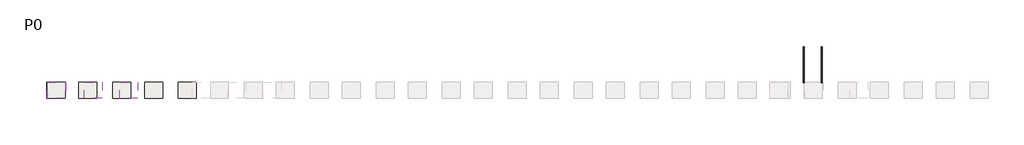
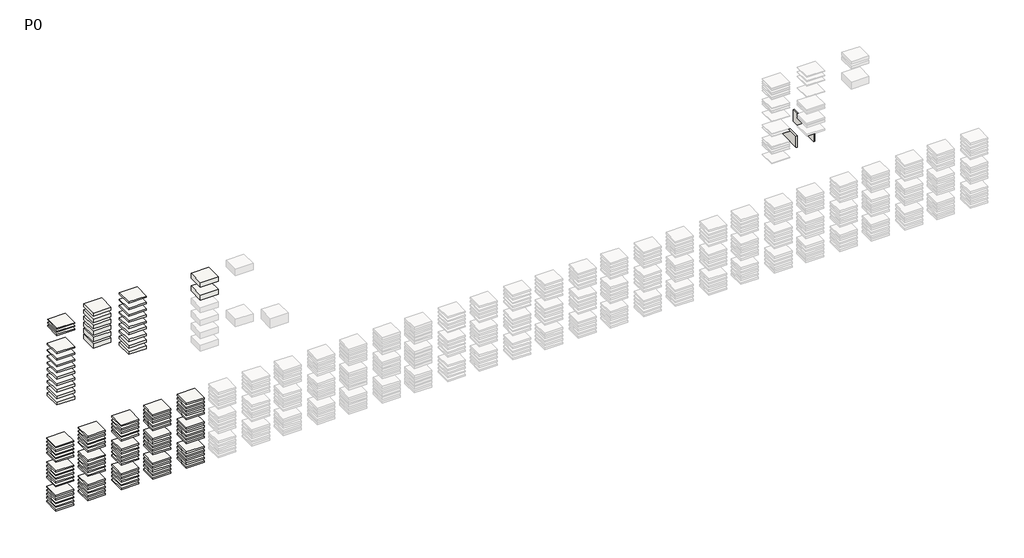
# One storey, part 1 of 11: 104 slabs, 2 walls.
"""IFC4 building model written with IfcOpenShell, lengths in millimetres."""

import ifcopenshell
import ifcopenshell.guid

model = None  # the IFC model being written
_history = None  # IfcOwnerHistory: only IFC2X3 demands one
_inside = {}  # id of a spatial element -> (the spatial element, [elements in it])
_under = {}  # id of a project, library or spatial element -> (it, [spatial elements below it])
_declared = {}  # id of a project -> (the project, [libraries it declares])
_typed = {}  # id of a type object -> (the type object, [elements of that type])
_made_of = {}  # id of a material, layer set ... -> (it, [elements and type objects made of it])


def new_model(schema):
    """Start an empty IFC model of exactly this schema.

    Asked for "IFC4X3", IfcOpenShell would pick the latest addendum, in which some entities
    have other attributes; the version numbers below select the first issue.
    IFC2X3 requires an IfcOwnerHistory on every rooted entity: one is made here for all.
    """
    global model, _history
    if schema == "IFC4X3":
        model = ifcopenshell.file(schema_version=(4, 3, 0, 0))
    else:
        model = ifcopenshell.file(schema=schema)
    _inside.clear()
    _under.clear()
    _declared.clear()
    _typed.clear()
    _made_of.clear()
    _history = None
    if model.schema == "IFC2X3":
        org = make("IfcOrganization", Name="unknown")
        user = make(
            "IfcPersonAndOrganization",
            ThePerson=make("IfcPerson", FamilyName="unknown"),
            TheOrganization=org,
        )
        app = make(
            "IfcApplication",
            ApplicationDeveloper=org,
            Version="unknown",
            ApplicationFullName="unknown",
            ApplicationIdentifier="unknown",
        )
        _history = make(
            "IfcOwnerHistory",
            OwningUser=user,
            OwningApplication=app,
            ChangeAction="ADDED",
            CreationDate=0,
        )
    return model


def make(cls, **values):
    """One entity of the class cls with the attributes given. An attribute that is None is left unset."""
    return model.create_entity(
        cls, **{name: value for name, value in values.items() if value is not None}
    )


def rooted(cls, **values):
    """An entity with a GlobalId (a new one), such as an element, a storey or a relation."""
    return make(cls, GlobalId=ifcopenshell.guid.new(), OwnerHistory=_history, **values)


def si_unit(unit_type, name, prefix=None):
    """IfcSIUnit, for example si_unit("LENGTHUNIT", "METRE", prefix="MILLI")."""
    return make("IfcSIUnit", UnitType=unit_type, Prefix=prefix, Name=name)


def assignment(units):
    """IfcUnitAssignment: the units of a project."""
    return None if units is None else make("IfcUnitAssignment", Units=units)


def point(xyz):
    """IfcCartesianPoint."""
    return None if xyz is None else make("IfcCartesianPoint", Coordinates=xyz)


def direction(xyz):
    """IfcDirection."""
    return None if xyz is None else make("IfcDirection", DirectionRatios=xyz)


def frame(location, z_axis=None, x_axis=None):
    """IfcAxis2Placement3D, a coordinate frame: its origin and axes. An axis left out is left unset."""
    return make(
        "IfcAxis2Placement3D",
        Location=point(location),
        Axis=direction(z_axis),
        RefDirection=direction(x_axis),
    )


def origin():
    """The frame at (0, 0, 0) with its axes left unset."""
    return frame((0.0, 0.0, 0.0))


def place(relative_to, where):
    """IfcLocalPlacement: puts the frame where relative to a parent placement (None: the world)."""
    return make(
        "IfcLocalPlacement", PlacementRelTo=relative_to, RelativePlacement=where
    )


def context(
    kind, dimensions, precision=None, world=None, true_north=None, identifier=None
):
    """IfcGeometricRepresentationContext, for example the 3D "Model" context."""
    return make(
        "IfcGeometricRepresentationContext",
        ContextIdentifier=identifier,
        ContextType=kind,
        CoordinateSpaceDimension=dimensions,
        Precision=precision,
        WorldCoordinateSystem=world,
        TrueNorth=true_north,
    )


def project(units=None, contexts=None):
    """IfcProject with its units and contexts."""
    return rooted(
        "IfcProject",
        Name="project",
        RepresentationContexts=contexts,
        UnitsInContext=assignment(units),
    )


def spatial(cls, under=None, at=None, **own):
    """A site, building, storey or space (cls), placed at a placement, below another one or the project."""
    s = rooted(cls, ObjectPlacement=at, **own)
    if under is not None:
        _under.setdefault(under.id(), (under, []))[1].append(s)
    return s


def polyline(points):
    """IfcPolyline through the points."""
    return make("IfcPolyline", Points=[point(p) for p in points])


def outline(outer, holes=None, kind="AREA"):
    """IfcArbitraryClosedProfileDef: a profile drawn as a closed curve; with holes, ...WithVoids."""
    if holes is None:
        return make("IfcArbitraryClosedProfileDef", ProfileType=kind, OuterCurve=outer)
    return make(
        "IfcArbitraryProfileDefWithVoids",
        ProfileType=kind,
        OuterCurve=outer,
        InnerCurves=holes,
    )


def extrude(swept, where, along, depth):
    """IfcExtrudedAreaSolid: the profile swept, set in the frame where, extruded along a direction by depth."""
    return make(
        "IfcExtrudedAreaSolid",
        SweptArea=swept,
        Position=where,
        ExtrudedDirection=direction(along),
        Depth=depth,
    )


def shape(context_of_items, identifier, shape_type, items):
    """IfcShapeRepresentation: the items that make up one representation, for example the "Body"."""
    return make(
        "IfcShapeRepresentation",
        ContextOfItems=context_of_items,
        RepresentationIdentifier=identifier,
        RepresentationType=shape_type,
        Items=items,
    )


def made_of(thing, what):
    """Note that an element or type object is made of a material, layer set ...; save() writes the relation."""
    if what is not None:
        _made_of.setdefault(what.id(), (what, []))[1].append(thing)
    return thing


def element(
    cls,
    number,
    at=None,
    inside=None,
    cuts=None,
    type_object=None,
    material=None,
    context=None,
    identifier="Body",
    shape_type=None,
    held_by="IfcProductDefinitionShape",
    body=None,
    shapes=None,
    **own,
):
    """One element of the class cls, such as IfcWall. Its Tag is "e" and its number.

    at: its placement. inside: the storey or other place that contains it. cuts: it is an
    opening in that element (IfcRelVoidsElement). A single representation is given by context,
    identifier, shape_type and body (its items); several are given by shapes. held_by: the class
    of the entity that holds the representations. save() writes the other relations.
    """
    e = rooted(cls, Tag="e%d" % number, ObjectPlacement=at, **own)
    if body is not None:
        shapes = [shape(context, identifier, shape_type, body)]
    if shapes is not None:
        e.Representation = make(held_by, Representations=shapes)
    if inside is not None:
        _inside.setdefault(inside.id(), (inside, []))[1].append(e)
    if cuts is not None:
        rooted(
            "IfcRelVoidsElement", RelatingBuildingElement=cuts, RelatedOpeningElement=e
        )
    if type_object is not None:
        _typed.setdefault(type_object.id(), (type_object, []))[1].append(e)
    return made_of(e, material)


def aggregate(whole, parts):
    """IfcRelAggregates: a whole, such as a stair, and the parts it consists of."""
    return rooted("IfcRelAggregates", RelatingObject=whole, RelatedObjects=parts)


def save(model, path):
    """Write the relations noted so far, then the file.

    IfcRelAggregates (storeys below a building ...), IfcRelContainedInSpatialStructure (elements
    in a storey), IfcRelDefinesByType, IfcRelAssociatesMaterial and IfcRelDeclares: one each for
    every whole, place, type object, material and project.
    """
    for whole, parts in _under.values():
        aggregate(whole, parts)
    for where, things in _inside.values():
        rooted(
            "IfcRelContainedInSpatialStructure",
            RelatedElements=things,
            RelatingStructure=where,
        )
    for kind, things in _typed.values():
        rooted("IfcRelDefinesByType", RelatedObjects=things, RelatingType=kind)
    for what, things in _made_of.values():
        rooted("IfcRelAssociatesMaterial", RelatedObjects=things, RelatingMaterial=what)
    for by, libraries in _declared.values():
        rooted("IfcRelDeclares", RelatingContext=by, RelatedDefinitions=libraries)
    model.write(path)


model = new_model("IFC4")

# Units and contexts
model_context = context("Model", 3, world=origin())
ifc_project = project(units=[si_unit("LENGTHUNIT", "METRE", prefix="MILLI")], contexts=[model_context])

# Site, building, storey
site = spatial("IfcSite", under=ifc_project)
building = spatial("IfcBuilding", under=site)
storey = spatial("IfcBuildingStorey", under=building, Name="P0", Elevation=0.0)

# Slabs
placement = place(None, origin())
element("IfcSlab", 1, ObjectType="INTERCAPEDINE VENTILATA H3", at=placement, inside=storey, context=model_context, shape_type="SweptSolid", body=[
    extrude(outline(polyline([(-34314.8658799, 1686.0689128), (-34314.8658799, -1013.9310872), (-37314.8658799, -1013.9310872), (-37314.8658799, 1686.0689128), (-34314.8658799, 1686.0689128)])), frame((0.0, 0.0, 13630.0), z_axis=(0.0, 0.0, 1.0), x_axis=(1.0, 0.0, 0.0)), (0.0, 0.0, 1.0), 130.0),
])
element("IfcSlab", 2, ObjectType="INTERCAPEDINE VENTILATA H6", at=placement, inside=storey, context=model_context, shape_type="SweptSolid", body=[
    extrude(outline(polyline([(-34314.8658799, 1686.0689128), (-34314.8658799, -1013.9310872), (-37314.8658799, -1013.9310872), (-37314.8658799, 1686.0689128), (-34314.8658799, 1686.0689128)])), frame((0.0, 0.0, 13060.0), z_axis=(0.0, 0.0, 1.0), x_axis=(1.0, 0.0, 0.0)), (0.0, 0.0, 1.0), 160.0),
])
element("IfcSlab", 3, ObjectType="INTERCAPEDINE VENTILATA H9", at=placement, inside=storey, context=model_context, shape_type="SweptSolid", body=[
    extrude(outline(polyline([(-34314.8658799, 1686.0689128), (-34314.8658799, -1013.9310872), (-37314.8658799, -1013.9310872), (-37314.8658799, 1686.0689128), (-34314.8658799, 1686.0689128)])), frame((0.0, 0.0, 12490.0000725), z_axis=(0.0, 0.0, 1.0), x_axis=(1.0, 0.0, 0.0)), (0.0, 0.0, 1.0), 190.0),
])
element("IfcSlab", 4, ObjectType="INTERCAPEDINE VENTILATA H13", at=placement, inside=storey, context=model_context, shape_type="SweptSolid", body=[
    extrude(outline(polyline([(-34334.8658799, 1686.0689128), (-34334.8658799, -1013.9310872), (-37334.8658799, -1013.9310872), (-37334.8658799, 1686.0689128), (-34334.8658799, 1686.0689128)])), frame((0.0, 0.0, 9260.0), z_axis=(0.0, 0.0, 1.0), x_axis=(1.0, 0.0, 0.0)), (0.0, 0.0, 1.0), 230.0),
])
element("IfcSlab", 5, ObjectType="INTERCAPEDINE VENTILATA H15", at=placement, inside=storey, context=model_context, shape_type="SweptSolid", body=[
    extrude(outline(polyline([(-34334.8658799, 1686.0689128), (-34334.8658799, -1013.9310872), (-37334.8658799, -1013.9310872), (-37334.8658799, 1686.0689128), (-34334.8658799, 1686.0689128)])), frame((0.0, 0.0, 8120.0), z_axis=(0.0, 0.0, 1.0), x_axis=(1.0, 0.0, 0.0)), (0.0, 0.0, 1.0), 250.0),
])
element("IfcSlab", 6, ObjectType="INTERCAPEDINE VENTILATA H17", at=placement, inside=storey, context=model_context, shape_type="SweptSolid", body=[
    extrude(outline(polyline([(-34334.8658799, 1686.0689128), (-34334.8658799, -1013.9310872), (-37334.8658799, -1013.9310872), (-37334.8658799, 1686.0689128), (-34334.8658799, 1686.0689128)])), frame((0.0, 0.0, 6980.0), z_axis=(0.0, 0.0, 1.0), x_axis=(1.0, 0.0, 0.0)), (0.0, 0.0, 1.0), 270.0),
])
element("IfcSlab", 7, ObjectType="INTERCAPEDINE VENTILATA H20", at=placement, inside=storey, context=model_context, shape_type="SweptSolid", body=[
    extrude(outline(polyline([(-34334.8658799, 1686.0689128), (-34334.8658799, -1013.9310872), (-37334.8658799, -1013.9310872), (-37334.8658799, 1686.0689128), (-34334.8658799, 1686.0689128)])), frame((0.0, 0.0, 5840.0), z_axis=(0.0, 0.0, 1.0), x_axis=(1.0, 0.0, 0.0)), (0.0, 0.0, 1.0), 300.0),
])
element("IfcSlab", 8, ObjectType="INTERCAPEDINE VENTILATA H25", at=placement, inside=storey, context=model_context, shape_type="SweptSolid", body=[
    extrude(outline(polyline([(-34334.8658799, 1686.0689128), (-34334.8658799, -1013.9310872), (-37334.8658799, -1013.9310872), (-37334.8658799, 1686.0689128), (-34334.8658799, 1686.0689128)])), frame((0.0, 0.0, 4700.0), z_axis=(0.0, 0.0, 1.0), x_axis=(1.0, 0.0, 0.0)), (0.0, 0.0, 1.0), 350.0),
])
element("IfcSlab", 9, ObjectType="INTERCAPEDINE VENTILATA H27", at=placement, inside=storey, context=model_context, shape_type="SweptSolid", body=[
    extrude(outline(polyline([(-34334.8658799, 1686.0689128), (-34334.8658799, -1013.9310872), (-37334.8658799, -1013.9310872), (-37334.8658799, 1686.0689128), (-34334.8658799, 1686.0689128)])), frame((0.0, 0.0, 3560.0), z_axis=(0.0, 0.0, 1.0), x_axis=(1.0, 0.0, 0.0)), (0.0, 0.0, 1.0), 370.0),
])
element("IfcSlab", 10, ObjectType="INTERCAPEDINE VENTILATA H30", at=placement, inside=storey, context=model_context, shape_type="SweptSolid", body=[
    extrude(outline(polyline([(-34334.8658799, 1686.0689128), (-34334.8658799, -1013.9310872), (-37334.8658799, -1013.9310872), (-37334.8658799, 1686.0689128), (-34334.8658799, 1686.0689128)])), frame((0.0, 0.0, 2420.0), z_axis=(0.0, 0.0, 1.0), x_axis=(1.0, 0.0, 0.0)), (0.0, 0.0, 1.0), 400.0),
])
element("IfcSlab", 11, ObjectType="INTERCAPEDINE VENTILATA H35", at=placement, inside=storey, context=model_context, shape_type="SweptSolid", body=[
    extrude(outline(polyline([(-34334.8658799, 1686.0689128), (-34334.8658799, -1013.9310872), (-37334.8658799, -1013.9310872), (-37334.8658799, 1686.0689128), (-34334.8658799, 1686.0689128)])), frame((0.0, 0.0, 1280.0), z_axis=(0.0, 0.0, 1.0), x_axis=(1.0, 0.0, 0.0)), (0.0, 0.0, 1.0), 450.0),
])
element("IfcSlab", 12, ObjectType="INTERCAPEDINE VENTILATA H40", at=placement, inside=storey, context=model_context, shape_type="SweptSolid", body=[
    extrude(outline(polyline([(-34334.8658799, 1686.0689128), (-34334.8658799, -1013.9310872), (-37334.8658799, -1013.9310872), (-37334.8658799, 1686.0689128), (-34334.8658799, 1686.0689128)])), frame((0.0, 0.0, 140.0), z_axis=(0.0, 0.0, 1.0), x_axis=(1.0, 0.0, 0.0)), (0.0, 0.0, 1.0), 500.0),
])
element("IfcSlab", 13, ObjectType="INTERCAPEDINE VENTILATA H45", at=placement, inside=storey, context=model_context, shape_type="SweptSolid", body=[
    extrude(outline(polyline([(-28223.7321132, 1686.0689128), (-28223.7321132, -1013.9310872), (-31223.7321132, -1013.9310872), (-31223.7321132, 1686.0689128), (-28223.7321132, 1686.0689128)])), frame((0.0, 0.0, 13820.0), z_axis=(0.0, 0.0, 1.0), x_axis=(1.0, 0.0, 0.0)), (0.0, 0.0, 1.0), 550.0),
])
element("IfcSlab", 14, ObjectType="INTERCAPEDINE VENTILATA H50", at=placement, inside=storey, context=model_context, shape_type="SweptSolid", body=[
    extrude(outline(polyline([(-28223.7658799, 1686.0689128), (-28223.7658799, -1013.9310872), (-31223.7658799, -1013.9310872), (-31223.7658799, 1686.0689128), (-28223.7658799, 1686.0689128)])), frame((0.0, 0.0, 12680.0), z_axis=(0.0, 0.0, 1.0), x_axis=(1.0, 0.0, 0.0)), (0.0, 0.0, 1.0), 600.0),
])
element("IfcSlab", 15, ObjectType="INTERCAPEDINE VENTILATA H55", at=placement, inside=storey, context=model_context, shape_type="SweptSolid", body=[
    extrude(outline(polyline([(-28223.7321132, 1686.0689128), (-28223.7321132, -1013.9310872), (-31223.7321132, -1013.9310872), (-31223.7321132, 1686.0689128), (-28223.7321132, 1686.0689128)])), frame((0.0, 0.0, 11540.0), z_axis=(0.0, 0.0, 1.0), x_axis=(1.0, 0.0, 0.0)), (0.0, 0.0, 1.0), 650.0),
])
element("IfcSlab", 16, ObjectType="INTERCAPEDINE VENTILATA H60", at=placement, inside=storey, context=model_context, shape_type="SweptSolid", body=[
    extrude(outline(polyline([(-28223.7321132, 1686.0689128), (-28223.7321132, -1013.9310872), (-31223.7321132, -1013.9310872), (-31223.7321132, 1686.0689128), (-28223.7321132, 1686.0689128)])), frame((0.0, 0.0, 10400.0), z_axis=(0.0, 0.0, 1.0), x_axis=(1.0, 0.0, 0.0)), (0.0, 0.0, 1.0), 700.0),
])
element("IfcSlab", 17, ObjectType="INTERCAPEDINE VENTILATA H65", at=placement, inside=storey, context=model_context, shape_type="SweptSolid", body=[
    extrude(outline(polyline([(-28223.7321132, 1686.0689128), (-28223.7321132, -1013.9310872), (-31223.7321132, -1013.9310872), (-31223.7321132, 1686.0689128), (-28223.7321132, 1686.0689128)])), frame((0.0, 0.0, 9260.0), z_axis=(0.0, 0.0, 1.0), x_axis=(1.0, 0.0, 0.0)), (0.0, 0.0, 1.0), 750.0),
])
element("IfcSlab", 18, ObjectType="INTERCAPEDINE VENTILATA H70", at=placement, inside=storey, context=model_context, shape_type="SweptSolid", body=[
    extrude(outline(polyline([(-28223.7321132, 1686.0689128), (-28223.7321132, -1013.9310872), (-31223.7321132, -1013.9310872), (-31223.7321132, 1686.0689128), (-28223.7321132, 1686.0689128)])), frame((0.0, 0.0, 8120.0), z_axis=(0.0, 0.0, 1.0), x_axis=(1.0, 0.0, 0.0)), (0.0, 0.0, 1.0), 800.0),
])
element("IfcSlab", 19, ObjectType="INTERCAPEDINE VENTILATA H13", at=placement, inside=storey, context=model_context, shape_type="SweptSolid", body=[
    extrude(outline(polyline([(-22245.6696558, 1686.0689128), (-22245.6696558, -1013.9310872), (-25245.6696558, -1013.9310872), (-25245.6696558, 1686.0689128), (-22245.6696558, 1686.0689128)])), frame((0.0, 0.0, 14010.0576339), z_axis=(0.0, 0.0, 1.0), x_axis=(1.0, 0.0, 0.0)), (0.0, 0.0, 1.0), 230.0),
])
element("IfcSlab", 20, ObjectType="INTERCAPEDINE VENTILATA H15", at=placement, inside=storey, context=model_context, shape_type="SweptSolid", body=[
    extrude(outline(polyline([(-22245.6696558, 1686.0689128), (-22245.6696558, -1013.9310872), (-25245.6696558, -1013.9310872), (-25245.6696558, 1686.0689128), (-22245.6696558, 1686.0689128)])), frame((0.0, 0.0, 12870.0576339), z_axis=(0.0, 0.0, 1.0), x_axis=(1.0, 0.0, 0.0)), (0.0, 0.0, 1.0), 250.0),
])
element("IfcSlab", 21, ObjectType="INTERCAPEDINE VENTILATA H17", at=placement, inside=storey, context=model_context, shape_type="SweptSolid", body=[
    extrude(outline(polyline([(-22245.6696558, 1686.0689128), (-22245.6696558, -1013.9310872), (-25245.6696558, -1013.9310872), (-25245.6696558, 1686.0689128), (-22245.6696558, 1686.0689128)])), frame((0.0, 0.0, 11730.0576339), z_axis=(0.0, 0.0, 1.0), x_axis=(1.0, 0.0, 0.0)), (0.0, 0.0, 1.0), 270.0),
])
element("IfcSlab", 22, ObjectType="INTERCAPEDINE VENTILATA H20", at=placement, inside=storey, context=model_context, shape_type="SweptSolid", body=[
    extrude(outline(polyline([(-22245.6696558, 1686.0689128), (-22245.6696558, -1013.9310872), (-25245.6696558, -1013.9310872), (-25245.6696558, 1686.0689128), (-22245.6696558, 1686.0689128)])), frame((0.0, 0.0, 10590.0576339), z_axis=(0.0, 0.0, 1.0), x_axis=(1.0, 0.0, 0.0)), (0.0, 0.0, 1.0), 300.0),
])
element("IfcSlab", 23, ObjectType="INTERCAPEDINE VENTILATA H25", at=placement, inside=storey, context=model_context, shape_type="SweptSolid", body=[
    extrude(outline(polyline([(-22245.6696558, 1686.0689128), (-22245.6696558, -1013.9310872), (-25245.6696558, -1013.9310872), (-25245.6696558, 1686.0689128), (-22245.6696558, 1686.0689128)])), frame((0.0, 0.0, 9450.0576339), z_axis=(0.0, 0.0, 1.0), x_axis=(1.0, 0.0, 0.0)), (0.0, 0.0, 1.0), 350.0),
])
element("IfcSlab", 24, ObjectType="INTERCAPEDINE VENTILATA H27", at=placement, inside=storey, context=model_context, shape_type="SweptSolid", body=[
    extrude(outline(polyline([(-22245.6696558, 1686.0689128), (-22245.6696558, -1013.9310872), (-25245.6696558, -1013.9310872), (-25245.6696558, 1686.0689128), (-22245.6696558, 1686.0689128)])), frame((0.0, 0.0, 8390.0), z_axis=(0.0, 0.0, 1.0), x_axis=(1.0, 0.0, 0.0)), (0.0, 0.0, 1.0), 370.0),
])
element("IfcSlab", 25, ObjectType="INTERCAPEDINE VENTILATA H30", at=placement, inside=storey, context=model_context, shape_type="SweptSolid", body=[
    extrude(outline(polyline([(-22245.6696558, 1686.0689128), (-22245.6696558, -1013.9310872), (-25245.6696558, -1013.9310872), (-25245.6696558, 1686.0689128), (-22245.6696558, 1686.0689128)])), frame((0.0, 0.0, 7170.0576339), z_axis=(0.0, 0.0, 1.0), x_axis=(1.0, 0.0, 0.0)), (0.0, 0.0, 1.0), 400.0),
])
element("IfcSlab", 26, ObjectType="INTERCAPEDINE VENTILATA H35", at=placement, inside=storey, context=model_context, shape_type="SweptSolid", body=[
    extrude(outline(polyline([(-22245.6696558, 1686.0689128), (-22245.6696558, -1013.9310872), (-25245.6696558, -1013.9310872), (-25245.6696558, 1686.0689128), (-22245.6696558, 1686.0689128)])), frame((0.0, 0.0, 6030.0576339), z_axis=(0.0, 0.0, 1.0), x_axis=(1.0, 0.0, 0.0)), (0.0, 0.0, 1.0), 450.0),
])
element("IfcSlab", 27, ObjectType="INTERCAPEDINE VENTILATA H40", at=placement, inside=storey, context=model_context, shape_type="SweptSolid", body=[
    extrude(outline(polyline([(-22245.6696558, 1686.0689128), (-22245.6696558, -1013.9310872), (-25245.6696558, -1013.9310872), (-25245.6696558, 1686.0689128), (-22245.6696558, 1686.0689128)])), frame((0.0, 0.0, 4890.0576339), z_axis=(0.0, 0.0, 1.0), x_axis=(1.0, 0.0, 0.0)), (0.0, 0.0, 1.0), 500.0),
])
element("IfcSlab", 28, ObjectType="INTERCAPEDINE VENTILATA H75", at=placement, inside=storey, context=model_context, shape_type="SweptSolid", body=[
    extrude(outline(polyline([(-10155.6696558, 1686.0689128), (-10155.6696558, -1013.9310872), (-13155.6696558, -1013.9310872), (-13155.6696558, 1686.0689128), (-10155.6696558, 1686.0689128)])), frame((0.0, 0.0, 12610.0000022), z_axis=(0.0, 0.0, 1.0), x_axis=(1.0, 0.0, 0.0)), (0.0, 0.0, 1.0), 850.0),
])
element("IfcSlab", 29, ObjectType="INTERCAPEDINE VENTILATA H80", at=placement, inside=storey, context=model_context, shape_type="SweptSolid", body=[
    extrude(outline(polyline([(-10155.6696558, 1686.0689128), (-10155.6696558, -1013.9310872), (-13155.6696558, -1013.9310872), (-13155.6696558, 1686.0689128), (-10155.6696558, 1686.0689128)])), frame((0.0, 0.0, 10330.0000022), z_axis=(0.0, 0.0, 1.0), x_axis=(1.0, 0.0, 0.0)), (0.0, 0.0, 1.0), 900.0),
])
element("IfcSlab", 30, ObjectType="NNEH10 H5", at=placement, inside=storey, context=model_context, shape_type="SweptSolid", body=[
    extrude(outline(polyline([(-34489.8435929, 1686.0689128), (-34489.8435929, -1013.9310872), (-37489.8435929, -1013.9310872), (-37489.8435929, 1686.0689128), (-34489.8435929, 1686.0689128)])), frame((0.0, 0.0, -7449.5323192), z_axis=(0.0, 0.0, 1.0), x_axis=(1.0, 0.0, 0.0)), (0.0, 0.0, 1.0), 208.0),
])
element("IfcSlab", 31, ObjectType="NNEH10 H5", at=placement, inside=storey, context=model_context, shape_type="SweptSolid", body=[
    extrude(outline(polyline([(-34489.8435929, 1686.0689128), (-34489.8435929, -1013.9310872), (-37489.8435929, -1013.9310872), (-37489.8435929, 1686.0689128), (-34489.8435929, 1686.0689128)])), frame((0.0, 0.0, -8099.5322376), z_axis=(0.0, 0.0, 1.0), x_axis=(1.0, 0.0, 0.0)), (0.0, 0.0, 1.0), 208.0),
])
element("IfcSlab", 32, ObjectType="NNEH10 H5", at=placement, inside=storey, context=model_context, shape_type="SweptSolid", body=[
    extrude(outline(polyline([(-34489.8435929, 1686.0689128), (-34489.8435929, -1013.9310872), (-37489.8435929, -1013.9310872), (-37489.8435929, 1686.0689128), (-34489.8435929, 1686.0689128)])), frame((0.0, 0.0, -8749.5322376), z_axis=(0.0, 0.0, 1.0), x_axis=(1.0, 0.0, 0.0)), (0.0, 0.0, 1.0), 208.0),
])
element("IfcSlab", 33, ObjectType="NNEH10 H5", at=placement, inside=storey, context=model_context, shape_type="SweptSolid", body=[
    extrude(outline(polyline([(-34489.8435929, 1686.0689128), (-34489.8435929, -1013.9310872), (-37489.8435929, -1013.9310872), (-37489.8435929, 1686.0689128), (-34489.8435929, 1686.0689128)])), frame((0.0, 0.0, -9399.5322376), z_axis=(0.0, 0.0, 1.0), x_axis=(1.0, 0.0, 0.0)), (0.0, 0.0, 1.0), 208.0),
])
element("IfcSlab", 34, ObjectType="NNEH10 H5", at=placement, inside=storey, context=model_context, shape_type="SweptSolid", body=[
    extrude(outline(polyline([(-34489.8435929, 1686.0689128), (-34489.8435929, -1013.9310872), (-37489.8435929, -1013.9310872), (-37489.8435929, 1686.0689128), (-34489.8435929, 1686.0689128)])), frame((0.0, 0.0, -10049.5323192), z_axis=(0.0, 0.0, 1.0), x_axis=(1.0, 0.0, 0.0)), (0.0, 0.0, 1.0), 208.0),
])
element("IfcSlab", 35, ObjectType="NNEH10 H6", at=placement, inside=storey, context=model_context, shape_type="SweptSolid", body=[
    extrude(outline(polyline([(-34489.8435929, 1686.0689128), (-34489.8435929, -1013.9310872), (-37489.8435929, -1013.9310872), (-37489.8435929, 1686.0689128), (-34489.8435929, 1686.0689128)])), frame((0.0, 0.0, -11779.532156), z_axis=(0.0, 0.0, 1.0), x_axis=(1.0, 0.0, 0.0)), (0.0, 0.0, 1.0), 218.0),
])
element("IfcSlab", 36, ObjectType="NNEH10 H6", at=placement, inside=storey, context=model_context, shape_type="SweptSolid", body=[
    extrude(outline(polyline([(-34489.8435929, 1686.0689128), (-34489.8435929, -1013.9310872), (-37489.8435929, -1013.9310872), (-37489.8435929, 1686.0689128), (-34489.8435929, 1686.0689128)])), frame((0.0, 0.0, -12429.532156), z_axis=(0.0, 0.0, 1.0), x_axis=(1.0, 0.0, 0.0)), (0.0, 0.0, 1.0), 218.0),
])
element("IfcSlab", 37, ObjectType="NNEH10 H6", at=placement, inside=storey, context=model_context, shape_type="SweptSolid", body=[
    extrude(outline(polyline([(-34489.8435929, 1686.0689128), (-34489.8435929, -1013.9310872), (-37489.8435929, -1013.9310872), (-37489.8435929, 1686.0689128), (-34489.8435929, 1686.0689128)])), frame((0.0, 0.0, -13079.532156), z_axis=(0.0, 0.0, 1.0), x_axis=(1.0, 0.0, 0.0)), (0.0, 0.0, 1.0), 218.0),
])
element("IfcSlab", 38, ObjectType="NNEH10 H6", at=placement, inside=storey, context=model_context, shape_type="SweptSolid", body=[
    extrude(outline(polyline([(-34489.8435929, 1686.0689128), (-34489.8435929, -1013.9310872), (-37489.8435929, -1013.9310872), (-37489.8435929, 1686.0689128), (-34489.8435929, 1686.0689128)])), frame((0.0, 0.0, -13729.532156), z_axis=(0.0, 0.0, 1.0), x_axis=(1.0, 0.0, 0.0)), (0.0, 0.0, 1.0), 218.0),
])
element("IfcSlab", 39, ObjectType="NNEH10 H6", at=placement, inside=storey, context=model_context, shape_type="SweptSolid", body=[
    extrude(outline(polyline([(-34489.8435929, 1686.0689128), (-34489.8435929, -1013.9310872), (-37489.8435929, -1013.9310872), (-37489.8435929, 1686.0689128), (-34489.8435929, 1686.0689128)])), frame((0.0, 0.0, -14379.532156), z_axis=(0.0, 0.0, 1.0), x_axis=(1.0, 0.0, 0.0)), (0.0, 0.0, 1.0), 218.0),
])
element("IfcSlab", 40, ObjectType="NNEH10 H7", at=placement, inside=storey, context=model_context, shape_type="SweptSolid", body=[
    extrude(outline(polyline([(-34489.8435929, 1686.0689128), (-34489.8435929, -1013.9310872), (-37489.8435929, -1013.9310872), (-37489.8435929, 1686.0689128), (-34489.8435929, 1686.0689128)])), frame((0.0, 0.0, -16109.5322376), z_axis=(0.0, 0.0, 1.0), x_axis=(1.0, 0.0, 0.0)), (0.0, 0.0, 1.0), 228.0),
])
element("IfcSlab", 41, ObjectType="NNEH10 H7", at=placement, inside=storey, context=model_context, shape_type="SweptSolid", body=[
    extrude(outline(polyline([(-34489.8435929, 1686.0689128), (-34489.8435929, -1013.9310872), (-37489.8435929, -1013.9310872), (-37489.8435929, 1686.0689128), (-34489.8435929, 1686.0689128)])), frame((0.0, 0.0, -16759.5322376), z_axis=(0.0, 0.0, 1.0), x_axis=(1.0, 0.0, 0.0)), (0.0, 0.0, 1.0), 228.0),
])
element("IfcSlab", 42, ObjectType="NNEH10 H7", at=placement, inside=storey, context=model_context, shape_type="SweptSolid", body=[
    extrude(outline(polyline([(-34489.8435929, 1686.0689128), (-34489.8435929, -1013.9310872), (-37489.8435929, -1013.9310872), (-37489.8435929, 1686.0689128), (-34489.8435929, 1686.0689128)])), frame((0.0, 0.0, -17409.5322376), z_axis=(0.0, 0.0, 1.0), x_axis=(1.0, 0.0, 0.0)), (0.0, 0.0, 1.0), 228.0),
])
element("IfcSlab", 43, ObjectType="NNEH10 H7", at=placement, inside=storey, context=model_context, shape_type="SweptSolid", body=[
    extrude(outline(polyline([(-34489.8435929, 1686.0689128), (-34489.8435929, -1013.9310872), (-37489.8435929, -1013.9310872), (-37489.8435929, 1686.0689128), (-34489.8435929, 1686.0689128)])), frame((0.0, 0.0, -18059.5322376), z_axis=(0.0, 0.0, 1.0), x_axis=(1.0, 0.0, 0.0)), (0.0, 0.0, 1.0), 228.0),
])
element("IfcSlab", 44, ObjectType="NNEH10 H7", at=placement, inside=storey, context=model_context, shape_type="SweptSolid", body=[
    extrude(outline(polyline([(-34489.8435929, 1686.0689128), (-34489.8435929, -1013.9310872), (-37489.8435929, -1013.9310872), (-37489.8435929, 1686.0689128), (-34489.8435929, 1686.0689128)])), frame((0.0, 0.0, -18709.5322376), z_axis=(0.0, 0.0, 1.0), x_axis=(1.0, 0.0, 0.0)), (0.0, 0.0, 1.0), 228.0),
])
element("IfcSlab", 45, ObjectType="NNEH10 H8", at=placement, inside=storey, context=model_context, shape_type="SweptSolid", body=[
    extrude(outline(polyline([(-29149.8435929, 1686.0689128), (-29149.8435929, -1013.9310872), (-32149.8435929, -1013.9310872), (-32149.8435929, 1686.0689128), (-29149.8435929, 1686.0689128)])), frame((0.0, 0.0, -7479.5322376), z_axis=(0.0, 0.0, 1.0), x_axis=(1.0, 0.0, 0.0)), (0.0, 0.0, 1.0), 238.0),
])
element("IfcSlab", 46, ObjectType="NNEH10 H8", at=placement, inside=storey, context=model_context, shape_type="SweptSolid", body=[
    extrude(outline(polyline([(-29149.8435929, 1686.0689128), (-29149.8435929, -1013.9310872), (-32149.8435929, -1013.9310872), (-32149.8435929, 1686.0689128), (-29149.8435929, 1686.0689128)])), frame((0.0, 0.0, -8129.5322376), z_axis=(0.0, 0.0, 1.0), x_axis=(1.0, 0.0, 0.0)), (0.0, 0.0, 1.0), 238.0),
])
element("IfcSlab", 47, ObjectType="NNEH10 H8", at=placement, inside=storey, context=model_context, shape_type="SweptSolid", body=[
    extrude(outline(polyline([(-29149.8435929, 1686.0689128), (-29149.8435929, -1013.9310872), (-32149.8435929, -1013.9310872), (-32149.8435929, 1686.0689128), (-29149.8435929, 1686.0689128)])), frame((0.0, 0.0, -8779.5322376), z_axis=(0.0, 0.0, 1.0), x_axis=(1.0, 0.0, 0.0)), (0.0, 0.0, 1.0), 238.0),
])
element("IfcSlab", 48, ObjectType="NNEH10 H8", at=placement, inside=storey, context=model_context, shape_type="SweptSolid", body=[
    extrude(outline(polyline([(-29149.8435929, 1686.0689128), (-29149.8435929, -1013.9310872), (-32149.8435929, -1013.9310872), (-32149.8435929, 1686.0689128), (-29149.8435929, 1686.0689128)])), frame((0.0, 0.0, -9429.5322376), z_axis=(0.0, 0.0, 1.0), x_axis=(1.0, 0.0, 0.0)), (0.0, 0.0, 1.0), 238.0),
])
element("IfcSlab", 49, ObjectType="NNEH10 H8", at=placement, inside=storey, context=model_context, shape_type="SweptSolid", body=[
    extrude(outline(polyline([(-29149.8435929, 1686.0689128), (-29149.8435929, -1013.9310872), (-32149.8435929, -1013.9310872), (-32149.8435929, 1686.0689128), (-29149.8435929, 1686.0689128)])), frame((0.0, 0.0, -10079.5323192), z_axis=(0.0, 0.0, 1.0), x_axis=(1.0, 0.0, 0.0)), (0.0, 0.0, 1.0), 238.0),
])
element("IfcSlab", 50, ObjectType="NNEH10 H9", at=placement, inside=storey, context=model_context, shape_type="SweptSolid", body=[
    extrude(outline(polyline([(-29149.8435929, 1686.0689128), (-29149.8435929, -1013.9310872), (-32149.8435929, -1013.9310872), (-32149.8435929, 1686.0689128), (-29149.8435929, 1686.0689128)])), frame((0.0, 0.0, -11809.532156), z_axis=(0.0, 0.0, 1.0), x_axis=(1.0, 0.0, 0.0)), (0.0, 0.0, 1.0), 248.0),
])
element("IfcSlab", 51, ObjectType="NNEH10 H9", at=placement, inside=storey, context=model_context, shape_type="SweptSolid", body=[
    extrude(outline(polyline([(-29149.8435929, 1686.0689128), (-29149.8435929, -1013.9310872), (-32149.8435929, -1013.9310872), (-32149.8435929, 1686.0689128), (-29149.8435929, 1686.0689128)])), frame((0.0, 0.0, -12459.532156), z_axis=(0.0, 0.0, 1.0), x_axis=(1.0, 0.0, 0.0)), (0.0, 0.0, 1.0), 248.0),
])
element("IfcSlab", 52, ObjectType="NNEH10 H9", at=placement, inside=storey, context=model_context, shape_type="SweptSolid", body=[
    extrude(outline(polyline([(-29149.8435929, 1686.0689128), (-29149.8435929, -1013.9310872), (-32149.8435929, -1013.9310872), (-32149.8435929, 1686.0689128), (-29149.8435929, 1686.0689128)])), frame((0.0, 0.0, -13109.532156), z_axis=(0.0, 0.0, 1.0), x_axis=(1.0, 0.0, 0.0)), (0.0, 0.0, 1.0), 248.0),
])
element("IfcSlab", 53, ObjectType="NNEH10 H9", at=placement, inside=storey, context=model_context, shape_type="SweptSolid", body=[
    extrude(outline(polyline([(-29149.8435929, 1686.0689128), (-29149.8435929, -1013.9310872), (-32149.8435929, -1013.9310872), (-32149.8435929, 1686.0689128), (-29149.8435929, 1686.0689128)])), frame((0.0, 0.0, -13759.532156), z_axis=(0.0, 0.0, 1.0), x_axis=(1.0, 0.0, 0.0)), (0.0, 0.0, 1.0), 248.0),
])
element("IfcSlab", 54, ObjectType="NNEH10 H9", at=placement, inside=storey, context=model_context, shape_type="SweptSolid", body=[
    extrude(outline(polyline([(-29149.8435929, 1686.0689128), (-29149.8435929, -1013.9310872), (-32149.8435929, -1013.9310872), (-32149.8435929, 1686.0689128), (-29149.8435929, 1686.0689128)])), frame((0.0, 0.0, -14409.532156), z_axis=(0.0, 0.0, 1.0), x_axis=(1.0, 0.0, 0.0)), (0.0, 0.0, 1.0), 248.0),
])
element("IfcSlab", 55, ObjectType="NNEH10 H10", at=placement, inside=storey, context=model_context, shape_type="SweptSolid", body=[
    extrude(outline(polyline([(-29149.8435929, 1686.0689128), (-29149.8435929, -1013.9310872), (-32149.8435929, -1013.9310872), (-32149.8435929, 1686.0689128), (-29149.8435929, 1686.0689128)])), frame((0.0, 0.0, -16139.5322376), z_axis=(0.0, 0.0, 1.0), x_axis=(1.0, 0.0, 0.0)), (0.0, 0.0, 1.0), 258.0),
])
element("IfcSlab", 56, ObjectType="NNEH10 H10", at=placement, inside=storey, context=model_context, shape_type="SweptSolid", body=[
    extrude(outline(polyline([(-29149.8435929, 1686.0689128), (-29149.8435929, -1013.9310872), (-32149.8435929, -1013.9310872), (-32149.8435929, 1686.0689128), (-29149.8435929, 1686.0689128)])), frame((0.0, 0.0, -16789.5322376), z_axis=(0.0, 0.0, 1.0), x_axis=(1.0, 0.0, 0.0)), (0.0, 0.0, 1.0), 258.0),
])
element("IfcSlab", 57, ObjectType="NNEH10 H10", at=placement, inside=storey, context=model_context, shape_type="SweptSolid", body=[
    extrude(outline(polyline([(-29149.8435929, 1686.0689128), (-29149.8435929, -1013.9310872), (-32149.8435929, -1013.9310872), (-32149.8435929, 1686.0689128), (-29149.8435929, 1686.0689128)])), frame((0.0, 0.0, -17439.5322376), z_axis=(0.0, 0.0, 1.0), x_axis=(1.0, 0.0, 0.0)), (0.0, 0.0, 1.0), 258.0),
])
element("IfcSlab", 58, ObjectType="NNEH10 H10", at=placement, inside=storey, context=model_context, shape_type="SweptSolid", body=[
    extrude(outline(polyline([(-29149.8435929, 1686.0689128), (-29149.8435929, -1013.9310872), (-32149.8435929, -1013.9310872), (-32149.8435929, 1686.0689128), (-29149.8435929, 1686.0689128)])), frame((0.0, 0.0, -18089.5322376), z_axis=(0.0, 0.0, 1.0), x_axis=(1.0, 0.0, 0.0)), (0.0, 0.0, 1.0), 258.0),
])
element("IfcSlab", 59, ObjectType="NNEH10 H10", at=placement, inside=storey, context=model_context, shape_type="SweptSolid", body=[
    extrude(outline(polyline([(-29149.8435929, 1686.0689128), (-29149.8435929, -1013.9310872), (-32149.8435929, -1013.9310872), (-32149.8435929, 1686.0689128), (-29149.8435929, 1686.0689128)])), frame((0.0, 0.0, -18739.5322376), z_axis=(0.0, 0.0, 1.0), x_axis=(1.0, 0.0, 0.0)), (0.0, 0.0, 1.0), 258.0),
])
element("IfcSlab", 60, ObjectType="NNEH13 H5", at=placement, inside=storey, context=model_context, shape_type="SweptSolid", body=[
    extrude(outline(polyline([(-23489.8435929, 1686.0689128), (-23489.8435929, -1013.9310872), (-26489.8435929, -1013.9310872), (-26489.8435929, 1686.0689128), (-23489.8435929, 1686.0689128)])), frame((0.0, 0.0, -7479.5323192), z_axis=(0.0, 0.0, 1.0), x_axis=(1.0, 0.0, 0.0)), (0.0, 0.0, 1.0), 238.0),
])
element("IfcSlab", 61, ObjectType="NNEH13 H5", at=placement, inside=storey, context=model_context, shape_type="SweptSolid", body=[
    extrude(outline(polyline([(-23489.8435929, 1686.0689128), (-23489.8435929, -1013.9310872), (-26489.8435929, -1013.9310872), (-26489.8435929, 1686.0689128), (-23489.8435929, 1686.0689128)])), frame((0.0, 0.0, -8129.5322376), z_axis=(0.0, 0.0, 1.0), x_axis=(1.0, 0.0, 0.0)), (0.0, 0.0, 1.0), 238.0),
])
element("IfcSlab", 62, ObjectType="NNEH13 H5", at=placement, inside=storey, context=model_context, shape_type="SweptSolid", body=[
    extrude(outline(polyline([(-23489.8435929, 1686.0689128), (-23489.8435929, -1013.9310872), (-26489.8435929, -1013.9310872), (-26489.8435929, 1686.0689128), (-23489.8435929, 1686.0689128)])), frame((0.0, 0.0, -8779.5322376), z_axis=(0.0, 0.0, 1.0), x_axis=(1.0, 0.0, 0.0)), (0.0, 0.0, 1.0), 238.0),
])
element("IfcSlab", 63, ObjectType="NNEH13 H5", at=placement, inside=storey, context=model_context, shape_type="SweptSolid", body=[
    extrude(outline(polyline([(-23489.8435929, 1686.0689128), (-23489.8435929, -1013.9310872), (-26489.8435929, -1013.9310872), (-26489.8435929, 1686.0689128), (-23489.8435929, 1686.0689128)])), frame((0.0, 0.0, -9429.5322376), z_axis=(0.0, 0.0, 1.0), x_axis=(1.0, 0.0, 0.0)), (0.0, 0.0, 1.0), 238.0),
])
element("IfcSlab", 64, ObjectType="NNEH13 H5", at=placement, inside=storey, context=model_context, shape_type="SweptSolid", body=[
    extrude(outline(polyline([(-23489.8435929, 1686.0689128), (-23489.8435929, -1013.9310872), (-26489.8435929, -1013.9310872), (-26489.8435929, 1686.0689128), (-23489.8435929, 1686.0689128)])), frame((0.0, 0.0, -10079.5323192), z_axis=(0.0, 0.0, 1.0), x_axis=(1.0, 0.0, 0.0)), (0.0, 0.0, 1.0), 238.0),
])
element("IfcSlab", 65, ObjectType="NNEH13 H6", at=placement, inside=storey, context=model_context, shape_type="SweptSolid", body=[
    extrude(outline(polyline([(-23489.8435929, 1686.0689128), (-23489.8435929, -1013.9310872), (-26489.8435929, -1013.9310872), (-26489.8435929, 1686.0689128), (-23489.8435929, 1686.0689128)])), frame((0.0, 0.0, -11809.532156), z_axis=(0.0, 0.0, 1.0), x_axis=(1.0, 0.0, 0.0)), (0.0, 0.0, 1.0), 248.0),
])
element("IfcSlab", 66, ObjectType="NNEH13 H6", at=placement, inside=storey, context=model_context, shape_type="SweptSolid", body=[
    extrude(outline(polyline([(-23489.8435929, 1686.0689128), (-23489.8435929, -1013.9310872), (-26489.8435929, -1013.9310872), (-26489.8435929, 1686.0689128), (-23489.8435929, 1686.0689128)])), frame((0.0, 0.0, -12459.532156), z_axis=(0.0, 0.0, 1.0), x_axis=(1.0, 0.0, 0.0)), (0.0, 0.0, 1.0), 248.0),
])
element("IfcSlab", 67, ObjectType="NNEH13 H6", at=placement, inside=storey, context=model_context, shape_type="SweptSolid", body=[
    extrude(outline(polyline([(-23489.8435929, 1686.0689128), (-23489.8435929, -1013.9310872), (-26489.8435929, -1013.9310872), (-26489.8435929, 1686.0689128), (-23489.8435929, 1686.0689128)])), frame((0.0, 0.0, -13109.532156), z_axis=(0.0, 0.0, 1.0), x_axis=(1.0, 0.0, 0.0)), (0.0, 0.0, 1.0), 248.0),
])
element("IfcSlab", 68, ObjectType="NNEH13 H6", at=placement, inside=storey, context=model_context, shape_type="SweptSolid", body=[
    extrude(outline(polyline([(-23489.8435929, 1686.0689128), (-23489.8435929, -1013.9310872), (-26489.8435929, -1013.9310872), (-26489.8435929, 1686.0689128), (-23489.8435929, 1686.0689128)])), frame((0.0, 0.0, -13759.532156), z_axis=(0.0, 0.0, 1.0), x_axis=(1.0, 0.0, 0.0)), (0.0, 0.0, 1.0), 248.0),
])
element("IfcSlab", 69, ObjectType="NNEH13 H6", at=placement, inside=storey, context=model_context, shape_type="SweptSolid", body=[
    extrude(outline(polyline([(-23489.8435929, 1686.0689128), (-23489.8435929, -1013.9310872), (-26489.8435929, -1013.9310872), (-26489.8435929, 1686.0689128), (-23489.8435929, 1686.0689128)])), frame((0.0, 0.0, -14409.532156), z_axis=(0.0, 0.0, 1.0), x_axis=(1.0, 0.0, 0.0)), (0.0, 0.0, 1.0), 248.0),
])
element("IfcSlab", 70, ObjectType="NNEH13 H7", at=placement, inside=storey, context=model_context, shape_type="SweptSolid", body=[
    extrude(outline(polyline([(-23489.8435929, 1686.0689128), (-23489.8435929, -1013.9310872), (-26489.8435929, -1013.9310872), (-26489.8435929, 1686.0689128), (-23489.8435929, 1686.0689128)])), frame((0.0, 0.0, -16139.5322376), z_axis=(0.0, 0.0, 1.0), x_axis=(1.0, 0.0, 0.0)), (0.0, 0.0, 1.0), 258.0),
])
element("IfcSlab", 71, ObjectType="NNEH13 H7", at=placement, inside=storey, context=model_context, shape_type="SweptSolid", body=[
    extrude(outline(polyline([(-23489.8435929, 1686.0689128), (-23489.8435929, -1013.9310872), (-26489.8435929, -1013.9310872), (-26489.8435929, 1686.0689128), (-23489.8435929, 1686.0689128)])), frame((0.0, 0.0, -16789.5322376), z_axis=(0.0, 0.0, 1.0), x_axis=(1.0, 0.0, 0.0)), (0.0, 0.0, 1.0), 258.0),
])
element("IfcSlab", 72, ObjectType="NNEH13 H7", at=placement, inside=storey, context=model_context, shape_type="SweptSolid", body=[
    extrude(outline(polyline([(-23489.8435929, 1686.0689128), (-23489.8435929, -1013.9310872), (-26489.8435929, -1013.9310872), (-26489.8435929, 1686.0689128), (-23489.8435929, 1686.0689128)])), frame((0.0, 0.0, -17439.5322376), z_axis=(0.0, 0.0, 1.0), x_axis=(1.0, 0.0, 0.0)), (0.0, 0.0, 1.0), 258.0),
])
element("IfcSlab", 73, ObjectType="NNEH13 H7", at=placement, inside=storey, context=model_context, shape_type="SweptSolid", body=[
    extrude(outline(polyline([(-23489.8435929, 1686.0689128), (-23489.8435929, -1013.9310872), (-26489.8435929, -1013.9310872), (-26489.8435929, 1686.0689128), (-23489.8435929, 1686.0689128)])), frame((0.0, 0.0, -18089.5322376), z_axis=(0.0, 0.0, 1.0), x_axis=(1.0, 0.0, 0.0)), (0.0, 0.0, 1.0), 258.0),
])
element("IfcSlab", 74, ObjectType="NNEH13 H7", at=placement, inside=storey, context=model_context, shape_type="SweptSolid", body=[
    extrude(outline(polyline([(-23489.8435929, 1686.0689128), (-23489.8435929, -1013.9310872), (-26489.8435929, -1013.9310872), (-26489.8435929, 1686.0689128), (-23489.8435929, 1686.0689128)])), frame((0.0, 0.0, -18739.5322376), z_axis=(0.0, 0.0, 1.0), x_axis=(1.0, 0.0, 0.0)), (0.0, 0.0, 1.0), 258.0),
])
element("IfcSlab", 75, ObjectType="NNEH13 H8", at=placement, inside=storey, context=model_context, shape_type="SweptSolid", body=[
    extrude(outline(polyline([(-18149.8435929, 1686.0689128), (-18149.8435929, -1013.9310872), (-21149.8435929, -1013.9310872), (-21149.8435929, 1686.0689128), (-18149.8435929, 1686.0689128)])), frame((0.0, 0.0, -7509.5322376), z_axis=(0.0, 0.0, 1.0), x_axis=(1.0, 0.0, 0.0)), (0.0, 0.0, 1.0), 268.0),
])
element("IfcSlab", 76, ObjectType="NNEH13 H8", at=placement, inside=storey, context=model_context, shape_type="SweptSolid", body=[
    extrude(outline(polyline([(-18149.8435929, 1686.0689128), (-18149.8435929, -1013.9310872), (-21149.8435929, -1013.9310872), (-21149.8435929, 1686.0689128), (-18149.8435929, 1686.0689128)])), frame((0.0, 0.0, -8159.5322376), z_axis=(0.0, 0.0, 1.0), x_axis=(1.0, 0.0, 0.0)), (0.0, 0.0, 1.0), 268.0),
])
element("IfcSlab", 77, ObjectType="NNEH13 H8", at=placement, inside=storey, context=model_context, shape_type="SweptSolid", body=[
    extrude(outline(polyline([(-18149.8435929, 1686.0689128), (-18149.8435929, -1013.9310872), (-21149.8435929, -1013.9310872), (-21149.8435929, 1686.0689128), (-18149.8435929, 1686.0689128)])), frame((0.0, 0.0, -8809.5322376), z_axis=(0.0, 0.0, 1.0), x_axis=(1.0, 0.0, 0.0)), (0.0, 0.0, 1.0), 268.0),
])
element("IfcSlab", 78, ObjectType="NNEH13 H8", at=placement, inside=storey, context=model_context, shape_type="SweptSolid", body=[
    extrude(outline(polyline([(-18149.8435929, 1686.0689128), (-18149.8435929, -1013.9310872), (-21149.8435929, -1013.9310872), (-21149.8435929, 1686.0689128), (-18149.8435929, 1686.0689128)])), frame((0.0, 0.0, -9459.5322376), z_axis=(0.0, 0.0, 1.0), x_axis=(1.0, 0.0, 0.0)), (0.0, 0.0, 1.0), 268.0),
])
element("IfcSlab", 79, ObjectType="NNEH13 H8", at=placement, inside=storey, context=model_context, shape_type="SweptSolid", body=[
    extrude(outline(polyline([(-18149.8435929, 1686.0689128), (-18149.8435929, -1013.9310872), (-21149.8435929, -1013.9310872), (-21149.8435929, 1686.0689128), (-18149.8435929, 1686.0689128)])), frame((0.0, 0.0, -10109.5323192), z_axis=(0.0, 0.0, 1.0), x_axis=(1.0, 0.0, 0.0)), (0.0, 0.0, 1.0), 268.0),
])
element("IfcSlab", 80, ObjectType="NNEH13 H9", at=placement, inside=storey, context=model_context, shape_type="SweptSolid", body=[
    extrude(outline(polyline([(-18149.8435929, 1686.0689128), (-18149.8435929, -1013.9310872), (-21149.8435929, -1013.9310872), (-21149.8435929, 1686.0689128), (-18149.8435929, 1686.0689128)])), frame((0.0, 0.0, -11839.532156), z_axis=(0.0, 0.0, 1.0), x_axis=(1.0, 0.0, 0.0)), (0.0, 0.0, 1.0), 278.0),
])
element("IfcSlab", 81, ObjectType="NNEH13 H9", at=placement, inside=storey, context=model_context, shape_type="SweptSolid", body=[
    extrude(outline(polyline([(-18149.8435929, 1686.0689128), (-18149.8435929, -1013.9310872), (-21149.8435929, -1013.9310872), (-21149.8435929, 1686.0689128), (-18149.8435929, 1686.0689128)])), frame((0.0, 0.0, -12489.532156), z_axis=(0.0, 0.0, 1.0), x_axis=(1.0, 0.0, 0.0)), (0.0, 0.0, 1.0), 278.0),
])
element("IfcSlab", 82, ObjectType="NNEH13 H9", at=placement, inside=storey, context=model_context, shape_type="SweptSolid", body=[
    extrude(outline(polyline([(-18149.8435929, 1686.0689128), (-18149.8435929, -1013.9310872), (-21149.8435929, -1013.9310872), (-21149.8435929, 1686.0689128), (-18149.8435929, 1686.0689128)])), frame((0.0, 0.0, -13139.532156), z_axis=(0.0, 0.0, 1.0), x_axis=(1.0, 0.0, 0.0)), (0.0, 0.0, 1.0), 278.0),
])
element("IfcSlab", 83, ObjectType="NNEH13 H9", at=placement, inside=storey, context=model_context, shape_type="SweptSolid", body=[
    extrude(outline(polyline([(-18149.8435929, 1686.0689128), (-18149.8435929, -1013.9310872), (-21149.8435929, -1013.9310872), (-21149.8435929, 1686.0689128), (-18149.8435929, 1686.0689128)])), frame((0.0, 0.0, -13789.532156), z_axis=(0.0, 0.0, 1.0), x_axis=(1.0, 0.0, 0.0)), (0.0, 0.0, 1.0), 278.0),
])
element("IfcSlab", 84, ObjectType="NNEH13 H9", at=placement, inside=storey, context=model_context, shape_type="SweptSolid", body=[
    extrude(outline(polyline([(-18149.8435929, 1686.0689128), (-18149.8435929, -1013.9310872), (-21149.8435929, -1013.9310872), (-21149.8435929, 1686.0689128), (-18149.8435929, 1686.0689128)])), frame((0.0, 0.0, -14439.532156), z_axis=(0.0, 0.0, 1.0), x_axis=(1.0, 0.0, 0.0)), (0.0, 0.0, 1.0), 278.0),
])
element("IfcSlab", 85, ObjectType="NNEH13 H10", at=placement, inside=storey, context=model_context, shape_type="SweptSolid", body=[
    extrude(outline(polyline([(-18149.8435929, 1686.0689128), (-18149.8435929, -1013.9310872), (-21149.8435929, -1013.9310872), (-21149.8435929, 1686.0689128), (-18149.8435929, 1686.0689128)])), frame((0.0, 0.0, -16169.5322376), z_axis=(0.0, 0.0, 1.0), x_axis=(1.0, 0.0, 0.0)), (0.0, 0.0, 1.0), 288.0),
])
element("IfcSlab", 86, ObjectType="NNEH13 H10", at=placement, inside=storey, context=model_context, shape_type="SweptSolid", body=[
    extrude(outline(polyline([(-18149.8435929, 1686.0689128), (-18149.8435929, -1013.9310872), (-21149.8435929, -1013.9310872), (-21149.8435929, 1686.0689128), (-18149.8435929, 1686.0689128)])), frame((0.0, 0.0, -16819.5322376), z_axis=(0.0, 0.0, 1.0), x_axis=(1.0, 0.0, 0.0)), (0.0, 0.0, 1.0), 288.0),
])
element("IfcSlab", 87, ObjectType="NNEH13 H10", at=placement, inside=storey, context=model_context, shape_type="SweptSolid", body=[
    extrude(outline(polyline([(-18149.8435929, 1686.0689128), (-18149.8435929, -1013.9310872), (-21149.8435929, -1013.9310872), (-21149.8435929, 1686.0689128), (-18149.8435929, 1686.0689128)])), frame((0.0, 0.0, -17469.5322376), z_axis=(0.0, 0.0, 1.0), x_axis=(1.0, 0.0, 0.0)), (0.0, 0.0, 1.0), 288.0),
])
element("IfcSlab", 88, ObjectType="NNEH13 H10", at=placement, inside=storey, context=model_context, shape_type="SweptSolid", body=[
    extrude(outline(polyline([(-18149.8435929, 1686.0689128), (-18149.8435929, -1013.9310872), (-21149.8435929, -1013.9310872), (-21149.8435929, 1686.0689128), (-18149.8435929, 1686.0689128)])), frame((0.0, 0.0, -18119.5322376), z_axis=(0.0, 0.0, 1.0), x_axis=(1.0, 0.0, 0.0)), (0.0, 0.0, 1.0), 288.0),
])
element("IfcSlab", 89, ObjectType="NNEH13 H10", at=placement, inside=storey, context=model_context, shape_type="SweptSolid", body=[
    extrude(outline(polyline([(-18149.8435929, 1686.0689128), (-18149.8435929, -1013.9310872), (-21149.8435929, -1013.9310872), (-21149.8435929, 1686.0689128), (-18149.8435929, 1686.0689128)])), frame((0.0, 0.0, -18769.5322376), z_axis=(0.0, 0.0, 1.0), x_axis=(1.0, 0.0, 0.0)), (0.0, 0.0, 1.0), 288.0),
])
element("IfcSlab", 90, ObjectType="NNEH16 H5", at=placement, inside=storey, context=model_context, shape_type="SweptSolid", body=[
    extrude(outline(polyline([(-12489.8435929, 1686.0689128), (-12489.8435929, -1013.9310872), (-15489.8435929, -1013.9310872), (-15489.8435929, 1686.0689128), (-12489.8435929, 1686.0689128)])), frame((0.0, 0.0, -7509.5323192), z_axis=(0.0, 0.0, 1.0), x_axis=(1.0, 0.0, 0.0)), (0.0, 0.0, 1.0), 268.0),
])
element("IfcSlab", 91, ObjectType="NNEH16 H5", at=placement, inside=storey, context=model_context, shape_type="SweptSolid", body=[
    extrude(outline(polyline([(-12489.8435929, 1686.0689128), (-12489.8435929, -1013.9310872), (-15489.8435929, -1013.9310872), (-15489.8435929, 1686.0689128), (-12489.8435929, 1686.0689128)])), frame((0.0, 0.0, -8159.5322376), z_axis=(0.0, 0.0, 1.0), x_axis=(1.0, 0.0, 0.0)), (0.0, 0.0, 1.0), 268.0),
])
element("IfcSlab", 92, ObjectType="NNEH16 H5", at=placement, inside=storey, context=model_context, shape_type="SweptSolid", body=[
    extrude(outline(polyline([(-12489.8435929, 1686.0689128), (-12489.8435929, -1013.9310872), (-15489.8435929, -1013.9310872), (-15489.8435929, 1686.0689128), (-12489.8435929, 1686.0689128)])), frame((0.0, 0.0, -8809.5322376), z_axis=(0.0, 0.0, 1.0), x_axis=(1.0, 0.0, 0.0)), (0.0, 0.0, 1.0), 268.0),
])
element("IfcSlab", 93, ObjectType="NNEH16 H5", at=placement, inside=storey, context=model_context, shape_type="SweptSolid", body=[
    extrude(outline(polyline([(-12489.8435929, 1686.0689128), (-12489.8435929, -1013.9310872), (-15489.8435929, -1013.9310872), (-15489.8435929, 1686.0689128), (-12489.8435929, 1686.0689128)])), frame((0.0, 0.0, -9459.5322376), z_axis=(0.0, 0.0, 1.0), x_axis=(1.0, 0.0, 0.0)), (0.0, 0.0, 1.0), 268.0),
])
element("IfcSlab", 94, ObjectType="NNEH16 H5", at=placement, inside=storey, context=model_context, shape_type="SweptSolid", body=[
    extrude(outline(polyline([(-12489.8435929, 1686.0689128), (-12489.8435929, -1013.9310872), (-15489.8435929, -1013.9310872), (-15489.8435929, 1686.0689128), (-12489.8435929, 1686.0689128)])), frame((0.0, 0.0, -10109.5323192), z_axis=(0.0, 0.0, 1.0), x_axis=(1.0, 0.0, 0.0)), (0.0, 0.0, 1.0), 268.0),
])
element("IfcSlab", 95, ObjectType="NNEH16 H6", at=placement, inside=storey, context=model_context, shape_type="SweptSolid", body=[
    extrude(outline(polyline([(-12489.8435929, 1686.0689128), (-12489.8435929, -1013.9310872), (-15489.8435929, -1013.9310872), (-15489.8435929, 1686.0689128), (-12489.8435929, 1686.0689128)])), frame((0.0, 0.0, -11839.532156), z_axis=(0.0, 0.0, 1.0), x_axis=(1.0, 0.0, 0.0)), (0.0, 0.0, 1.0), 278.0),
])
element("IfcSlab", 96, ObjectType="NNEH16 H6", at=placement, inside=storey, context=model_context, shape_type="SweptSolid", body=[
    extrude(outline(polyline([(-12489.8435929, 1686.0689128), (-12489.8435929, -1013.9310872), (-15489.8435929, -1013.9310872), (-15489.8435929, 1686.0689128), (-12489.8435929, 1686.0689128)])), frame((0.0, 0.0, -12489.532156), z_axis=(0.0, 0.0, 1.0), x_axis=(1.0, 0.0, 0.0)), (0.0, 0.0, 1.0), 278.0),
])
element("IfcSlab", 97, ObjectType="NNEH16 H6", at=placement, inside=storey, context=model_context, shape_type="SweptSolid", body=[
    extrude(outline(polyline([(-12489.8435929, 1686.0689128), (-12489.8435929, -1013.9310872), (-15489.8435929, -1013.9310872), (-15489.8435929, 1686.0689128), (-12489.8435929, 1686.0689128)])), frame((0.0, 0.0, -13139.532156), z_axis=(0.0, 0.0, 1.0), x_axis=(1.0, 0.0, 0.0)), (0.0, 0.0, 1.0), 278.0),
])
element("IfcSlab", 98, ObjectType="NNEH16 H6", at=placement, inside=storey, context=model_context, shape_type="SweptSolid", body=[
    extrude(outline(polyline([(-12489.8435929, 1686.0689128), (-12489.8435929, -1013.9310872), (-15489.8435929, -1013.9310872), (-15489.8435929, 1686.0689128), (-12489.8435929, 1686.0689128)])), frame((0.0, 0.0, -13789.532156), z_axis=(0.0, 0.0, 1.0), x_axis=(1.0, 0.0, 0.0)), (0.0, 0.0, 1.0), 278.0),
])
element("IfcSlab", 99, ObjectType="NNEH16 H6", at=placement, inside=storey, context=model_context, shape_type="SweptSolid", body=[
    extrude(outline(polyline([(-12489.8435929, 1686.0689128), (-12489.8435929, -1013.9310872), (-15489.8435929, -1013.9310872), (-15489.8435929, 1686.0689128), (-12489.8435929, 1686.0689128)])), frame((0.0, 0.0, -14439.532156), z_axis=(0.0, 0.0, 1.0), x_axis=(1.0, 0.0, 0.0)), (0.0, 0.0, 1.0), 278.0),
])
element("IfcSlab", 100, ObjectType="NNEH16 H7", at=placement, inside=storey, context=model_context, shape_type="SweptSolid", body=[
    extrude(outline(polyline([(-12489.8435929, 1686.0689128), (-12489.8435929, -1013.9310872), (-15489.8435929, -1013.9310872), (-15489.8435929, 1686.0689128), (-12489.8435929, 1686.0689128)])), frame((0.0, 0.0, -16169.5322376), z_axis=(0.0, 0.0, 1.0), x_axis=(1.0, 0.0, 0.0)), (0.0, 0.0, 1.0), 288.0),
])
element("IfcSlab", 101, ObjectType="NNEH16 H7", at=placement, inside=storey, context=model_context, shape_type="SweptSolid", body=[
    extrude(outline(polyline([(-12489.8435929, 1686.0689128), (-12489.8435929, -1013.9310872), (-15489.8435929, -1013.9310872), (-15489.8435929, 1686.0689128), (-12489.8435929, 1686.0689128)])), frame((0.0, 0.0, -16819.5322376), z_axis=(0.0, 0.0, 1.0), x_axis=(1.0, 0.0, 0.0)), (0.0, 0.0, 1.0), 288.0),
])
element("IfcSlab", 102, ObjectType="NNEH16 H7", at=placement, inside=storey, context=model_context, shape_type="SweptSolid", body=[
    extrude(outline(polyline([(-12489.8435929, 1686.0689128), (-12489.8435929, -1013.9310872), (-15489.8435929, -1013.9310872), (-15489.8435929, 1686.0689128), (-12489.8435929, 1686.0689128)])), frame((0.0, 0.0, -17469.5322376), z_axis=(0.0, 0.0, 1.0), x_axis=(1.0, 0.0, 0.0)), (0.0, 0.0, 1.0), 288.0),
])
element("IfcSlab", 103, ObjectType="NNEH16 H7", at=placement, inside=storey, context=model_context, shape_type="SweptSolid", body=[
    extrude(outline(polyline([(-12489.8435929, 1686.0689128), (-12489.8435929, -1013.9310872), (-15489.8435929, -1013.9310872), (-15489.8435929, 1686.0689128), (-12489.8435929, 1686.0689128)])), frame((0.0, 0.0, -18119.5322376), z_axis=(0.0, 0.0, 1.0), x_axis=(1.0, 0.0, 0.0)), (0.0, 0.0, 1.0), 288.0),
])
element("IfcSlab", 104, ObjectType="NNEH16 H7", at=placement, inside=storey, context=model_context, shape_type="SweptSolid", body=[
    extrude(outline(polyline([(-12489.8435929, 1686.0689128), (-12489.8435929, -1013.9310872), (-15489.8435929, -1013.9310872), (-15489.8435929, 1686.0689128), (-12489.8435929, 1686.0689128)])), frame((0.0, 0.0, -18769.5322376), z_axis=(0.0, 0.0, 1.0), x_axis=(1.0, 0.0, 0.0)), (0.0, 0.0, 1.0), 288.0),
])

# Walls
element("IfcWall", 105, ObjectType="MU_GENERICO_20", at=placement, inside=storey, context=model_context, shape_type="SweptSolid", body=[
    extrude(outline(polyline([(91664.7683911, 1609.9083387), (91664.7683911, 7609.9083387), (91864.7683911, 7609.9083387), (91864.7683911, 1609.9083387), (91664.7683911, 1609.9083387)])), frame((0.0, 0.0, 279.5144953), z_axis=(0.0, 0.0, 1.0), x_axis=(1.0, 0.0, 0.0)), (0.0, 0.0, 1.0), 2020.4855047),
])
element("IfcWall", 106, ObjectType="MU_GENERICO_20", at=placement, inside=storey, context=model_context, shape_type="SweptSolid", body=[
    extrude(outline(polyline([(88681.2247711, 1609.9083387), (88681.2247711, 7609.9083387), (88881.2247711, 7609.9083387), (88881.2247711, 1609.9083387), (88681.2247711, 1609.9083387)])), frame((0.0, 0.0, 279.5144953), z_axis=(0.0, 0.0, 1.0), x_axis=(1.0, 0.0, 0.0)), (0.0, 0.0, 1.0), 2020.4855047),
])

save(model, "model.ifc")
